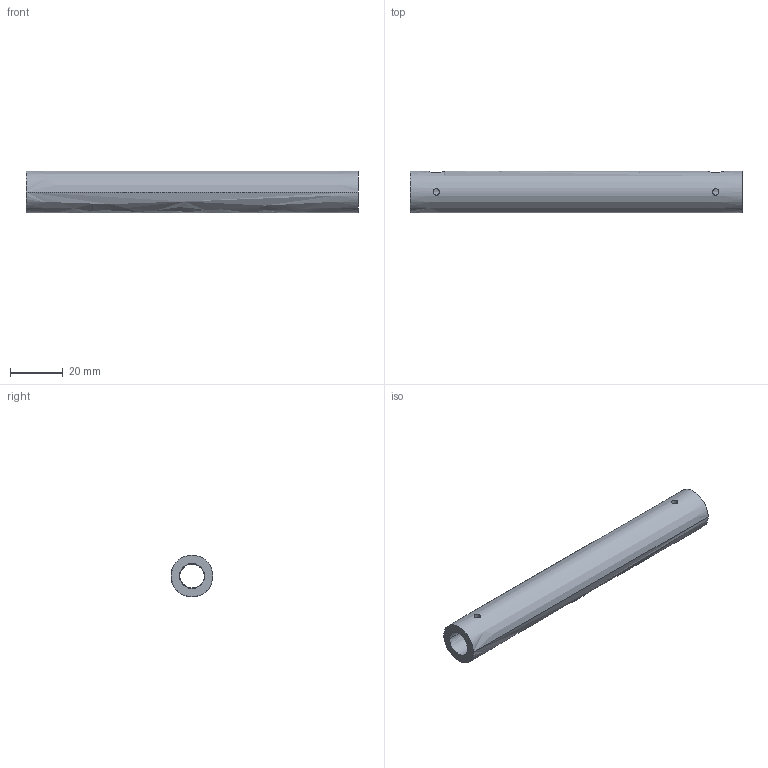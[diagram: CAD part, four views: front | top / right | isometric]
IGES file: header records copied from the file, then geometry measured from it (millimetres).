
Start section: START RECORD GO HERE.
Global section: file name: 1360.000.008.002.BUJE_TALLA.igs; native system: DASSAULT SYSTEMES CATIA Version 5-6 Release 2018 - www.3ds.com; preprocessor: V5-6R2018_5.28.6.0.03-10-2020.20.00; author: Pc; organization: DESKTOP-CAESKE4; date: 20241108.095716; units: millimetre
Bounding box: 126 x 15.88 x 15.88 mm (x, y, z)
Surface area: 10337 mm2 (no closed solid volume)
Topology: 0 solids, 0 shells, 14 faces, 88 edges, 88 vertices
Faces by surface type: revolution 12, plane 2
